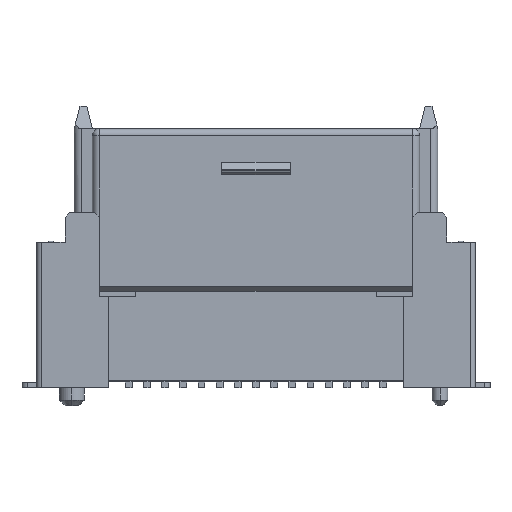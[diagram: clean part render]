
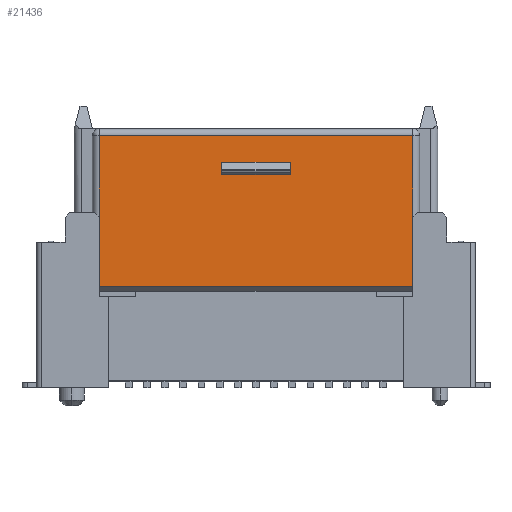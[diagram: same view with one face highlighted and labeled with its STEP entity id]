
A CAD part, top view. The second image highlights one B-rep face of the part: STEP entity #21436.
In plain terms, the highlighted planar face has unit normal (0, 0, 1).
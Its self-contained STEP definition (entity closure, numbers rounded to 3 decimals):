
#525 = VERTEX_POINT ( 'NONE', #10219 ) ;
#879 = DIRECTION ( 'NONE',  ( -1., 0., 0. ) ) ;
#912 = LINE ( 'NONE', #7047, #20703 ) ;
#946 = DIRECTION ( 'NONE',  ( 0., 0., -1. ) ) ;
#1400 = FACE_BOUND ( 'NONE', #10525, .T. ) ;
#1498 = CARTESIAN_POINT ( 'NONE',  ( 1.5, 9.377, 2.23 ) ) ;
#1618 = DIRECTION ( 'NONE',  ( -1., 0., 0. ) ) ;
#1800 = EDGE_CURVE ( 'NONE', #9984, #6482, #21381, .T. ) ;
#2404 = ORIENTED_EDGE ( 'NONE', *, *, #3121, .T. ) ;
#2519 = PLANE ( 'NONE',  #14845 ) ;
#2796 = LINE ( 'NONE', #19392, #19272 ) ;
#3121 = EDGE_CURVE ( 'NONE', #21675, #3135, #912, .T. ) ;
#3135 = VERTEX_POINT ( 'NONE', #21232 ) ;
#3786 = DIRECTION ( 'NONE',  ( 0., -1., 0. ) ) ;
#3792 = VECTOR ( 'NONE', #18410, 1000. ) ;
#3830 = LINE ( 'NONE', #12192, #4662 ) ;
#4229 = ORIENTED_EDGE ( 'NONE', *, *, #5840, .T. ) ;
#4337 = LINE ( 'NONE', #6586, #21888 ) ;
#4662 = VECTOR ( 'NONE', #8497, 1000. ) ;
#4675 = EDGE_LOOP ( 'NONE', ( #11339, #7509, #4229, #2404, #15335, #7736 ) ) ;
#5023 = VERTEX_POINT ( 'NONE', #20282 ) ;
#5777 = EDGE_CURVE ( 'NONE', #17144, #19311, #14687, .T. ) ;
#5840 = EDGE_CURVE ( 'NONE', #525, #21675, #3830, .T. ) ;
#5947 = CARTESIAN_POINT ( 'NONE',  ( 1.5, 9.377, 2.23 ) ) ;
#6000 = CARTESIAN_POINT ( 'NONE',  ( 6.9, 4.452, 2.23 ) ) ;
#6038 = VECTOR ( 'NONE', #8205, 1000. ) ;
#6482 = VERTEX_POINT ( 'NONE', #11234 ) ;
#6586 = CARTESIAN_POINT ( 'NONE',  ( -13.576, 11.1, 2.23 ) ) ;
#7047 = CARTESIAN_POINT ( 'NONE',  ( 6.9, 7.7, 2.23 ) ) ;
#7378 = ORIENTED_EDGE ( 'NONE', *, *, #9594, .T. ) ;
#7509 = ORIENTED_EDGE ( 'NONE', *, *, #8119, .T. ) ;
#7520 = EDGE_CURVE ( 'NONE', #17144, #17213, #10765, .T. ) ;
#7736 = ORIENTED_EDGE ( 'NONE', *, *, #16201, .T. ) ;
#8119 = EDGE_CURVE ( 'NONE', #6482, #525, #15453, .T. ) ;
#8205 = DIRECTION ( 'NONE',  ( 0., -1., 0. ) ) ;
#8399 = FACE_OUTER_BOUND ( 'NONE', #4675, .T. ) ;
#8497 = DIRECTION ( 'NONE',  ( 0., 1., 0. ) ) ;
#8697 = DIRECTION ( 'NONE',  ( 0., 1., 0. ) ) ;
#8858 = DIRECTION ( 'NONE',  ( 0., 1., 0. ) ) ;
#8976 = ORIENTED_EDGE ( 'NONE', *, *, #19011, .F. ) ;
#9594 = EDGE_CURVE ( 'NONE', #17213, #5023, #15045, .T. ) ;
#9889 = ORIENTED_EDGE ( 'NONE', *, *, #5777, .F. ) ;
#9984 = VERTEX_POINT ( 'NONE', #18849 ) ;
#10219 = CARTESIAN_POINT ( 'NONE',  ( 6.9, 4.452, 2.23 ) ) ;
#10336 = VECTOR ( 'NONE', #8697, 1000. ) ;
#10451 = CARTESIAN_POINT ( 'NONE',  ( -6.9, 11.1, 2.23 ) ) ;
#10501 = CARTESIAN_POINT ( 'NONE',  ( 1.5, 9.923, 2.23 ) ) ;
#10525 = EDGE_LOOP ( 'NONE', ( #8976, #9889, #14208, #7378 ) ) ;
#10765 = LINE ( 'NONE', #5947, #3792 ) ;
#11234 = CARTESIAN_POINT ( 'NONE',  ( -6.9, 4.452, 2.23 ) ) ;
#11339 = ORIENTED_EDGE ( 'NONE', *, *, #1800, .T. ) ;
#12068 = DIRECTION ( 'NONE',  ( -1., 0., 0. ) ) ;
#12132 = EDGE_CURVE ( 'NONE', #3135, #19869, #4337, .T. ) ;
#12192 = CARTESIAN_POINT ( 'NONE',  ( 6.9, 7.7, 2.23 ) ) ;
#12735 = CARTESIAN_POINT ( 'NONE',  ( -6.9, 7.7, 2.23 ) ) ;
#13208 = DIRECTION ( 'NONE',  ( 1., 0., 0. ) ) ;
#13734 = DIRECTION ( 'NONE',  ( 0., 1., 0. ) ) ;
#14208 = ORIENTED_EDGE ( 'NONE', *, *, #7520, .T. ) ;
#14635 = VECTOR ( 'NONE', #3786, 1000. ) ;
#14687 = LINE ( 'NONE', #10501, #17494 ) ;
#14845 = AXIS2_PLACEMENT_3D ( 'NONE', #22302, #946, #879 ) ;
#15045 = LINE ( 'NONE', #19510, #10336 ) ;
#15335 = ORIENTED_EDGE ( 'NONE', *, *, #12132, .T. ) ;
#15453 = LINE ( 'NONE', #6000, #21343 ) ;
#16201 = EDGE_CURVE ( 'NONE', #19869, #9984, #17717, .T. ) ;
#17054 = CARTESIAN_POINT ( 'NONE',  ( -6.9, 7.7, 2.23 ) ) ;
#17144 = VERTEX_POINT ( 'NONE', #1498 ) ;
#17213 = VERTEX_POINT ( 'NONE', #19733 ) ;
#17494 = VECTOR ( 'NONE', #13734, 1000. ) ;
#17717 = LINE ( 'NONE', #12735, #14635 ) ;
#18410 = DIRECTION ( 'NONE',  ( -1., 0., 0. ) ) ;
#18849 = CARTESIAN_POINT ( 'NONE',  ( -6.9, 7.5, 2.23 ) ) ;
#19011 = EDGE_CURVE ( 'NONE', #19311, #5023, #2796, .T. ) ;
#19272 = VECTOR ( 'NONE', #1618, 1000. ) ;
#19311 = VERTEX_POINT ( 'NONE', #22383 ) ;
#19392 = CARTESIAN_POINT ( 'NONE',  ( 1.5, 9.923, 2.23 ) ) ;
#19416 = CARTESIAN_POINT ( 'NONE',  ( 6.9, 7.5, 2.23 ) ) ;
#19510 = CARTESIAN_POINT ( 'NONE',  ( -1.5, 9.923, 2.23 ) ) ;
#19733 = CARTESIAN_POINT ( 'NONE',  ( -1.5, 9.377, 2.23 ) ) ;
#19869 = VERTEX_POINT ( 'NONE', #10451 ) ;
#20282 = CARTESIAN_POINT ( 'NONE',  ( -1.5, 9.923, 2.23 ) ) ;
#20703 = VECTOR ( 'NONE', #8858, 1000. ) ;
#21232 = CARTESIAN_POINT ( 'NONE',  ( 6.9, 11.1, 2.23 ) ) ;
#21343 = VECTOR ( 'NONE', #13208, 1000. ) ;
#21381 = LINE ( 'NONE', #17054, #6038 ) ;
#21436 = ADVANCED_FACE ( 'NONE', ( #1400, #8399 ), #2519, .F. ) ;
#21675 = VERTEX_POINT ( 'NONE', #19416 ) ;
#21888 = VECTOR ( 'NONE', #12068, 1000. ) ;
#22302 = CARTESIAN_POINT ( 'NONE',  ( -13.576, 7.7, 2.23 ) ) ;
#22383 = CARTESIAN_POINT ( 'NONE',  ( 1.5, 9.923, 2.23 ) ) ;
